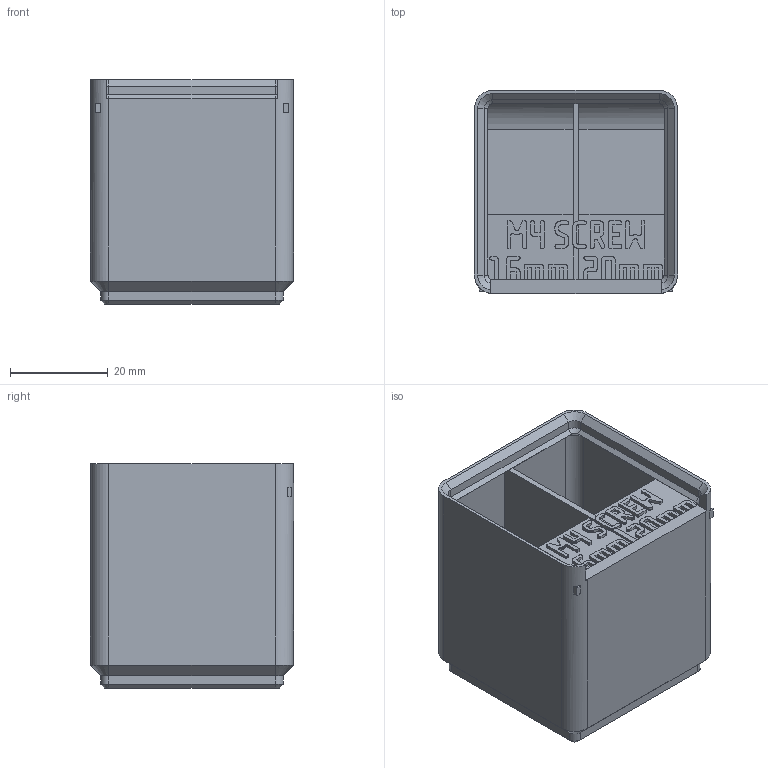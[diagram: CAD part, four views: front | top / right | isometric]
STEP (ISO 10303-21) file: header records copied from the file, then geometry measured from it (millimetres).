
FILE_DESCRIPTION(('Open CASCADE Model'),'2;1');
FILE_NAME('Open CASCADE Shape Model','2026-11-03T10:35:43',('Author'),( 'Open CASCADE'),'Open CASCADE STEP processor 8.0','build123d', 'Unknown');
FILE_SCHEMA(('AUTOMOTIVE_DESIGN { 1 0 10303 214 1 1 1 1 }'));
Products named in the file (1): COMPOUND
Bounding box: 41.5 x 41.5 x 45.9 mm (x, y, z)
Volume: 18619.7 mm3; surface area: 20288.9 mm2
Topology: 1 solids, 1 shells, 1595 faces, 4728 edges, 3136 vertices
Faces by surface type: plane 1557, cone 20, cylinder 18
Entity records: 110310 total; most frequent: CARTESIAN_POINT 23322, DIRECTION 13555, LINE 10179, VECTOR 10179, ORIENTED_EDGE 9456, PCURVE 9456, DEFINITIONAL_REPRESENTATION 9456, EDGE_CURVE 4728
